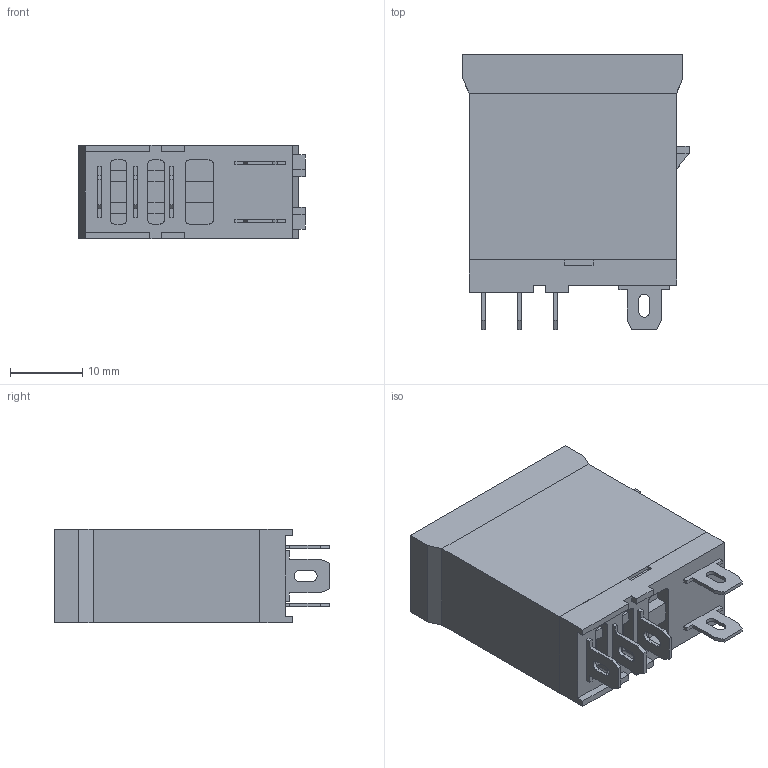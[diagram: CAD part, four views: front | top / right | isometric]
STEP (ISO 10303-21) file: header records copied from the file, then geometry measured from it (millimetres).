
FILE_DESCRIPTION (( 'STEP AP203' ), '1' );
FILE_NAME ('rpat-25-1-230AC(24DC).ÃÌ Ðåëå ïðîìåæóòî÷íîå ñ êíîïêîé è ìåõ. Èíäèêàöèåé.STEP', '2024-04-08T13:19:13', ( '' ), ( '' ), 'SwSTEP 2.0', 'SolidWorks 2021', '' );
FILE_SCHEMA (( 'CONFIG_CONTROL_DESIGN' ));
Length unit declared in the file: millimetre
Products named in the file (1): rpat-25-1-230AC(24DC).ÃÌ Ðåëå ïðîìåæóòî÷íîå ñ êíîïêîé è ìåõ. Èíäèêàöèåé
Bounding box: 31.43 x 38.25 x 13 mm (x, y, z)
Volume: 12029.9 mm3; surface area: 5645.5 mm2
Topology: 8 solids, 8 shells, 233 faces, 622 edges, 414 vertices
Faces by surface type: plane 209, cylinder 22, cone 2
Entity records: 7231 total; most frequent: CARTESIAN_POINT 1270, ORIENTED_EDGE 1244, DIRECTION 1138, EDGE_CURVE 622, LINE 574, VECTOR 574, VERTEX_POINT 414, AXIS2_PLACEMENT_3D 282
